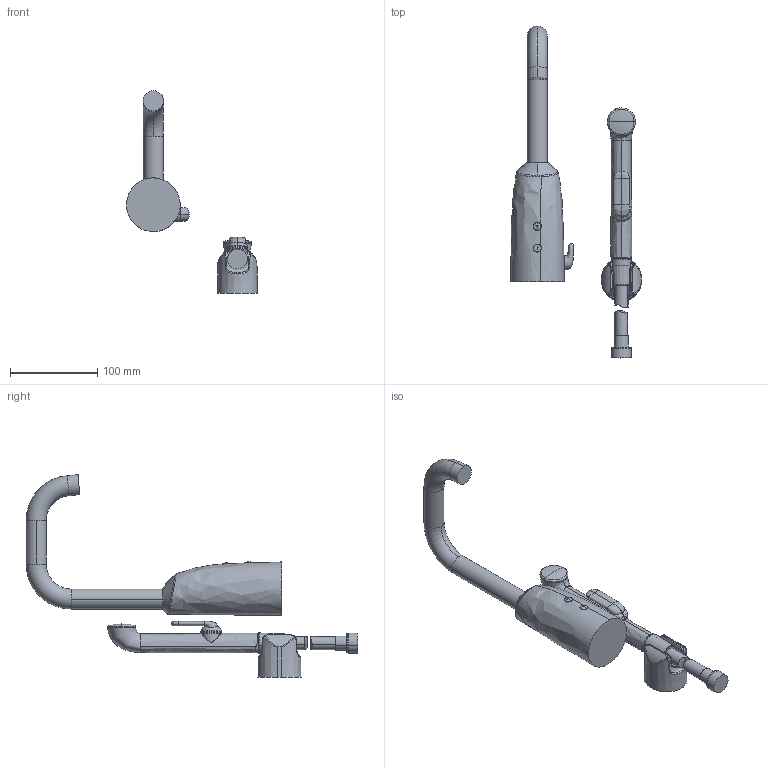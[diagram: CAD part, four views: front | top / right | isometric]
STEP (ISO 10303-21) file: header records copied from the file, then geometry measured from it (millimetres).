
FILE_DESCRIPTION (( 'STEP AP203' ), '1' );
FILE_NAME ('6332F+6336FT.STEP', '2018-07-11T11:33:03', ( '' ), ( '' ), 'SwSTEP 2.0', 'SolidWorks 2016', '' );
FILE_SCHEMA (( 'CONFIG_CONTROL_DESIGN' ));
Length unit declared in the file: millimetre
Products named in the file (1): 6332F+6336FT
Bounding box: 149.99 x 380.01 x 231.96 mm (x, y, z)
Volume: 652929 mm3; surface area: 89911.3 mm2
Topology: 11 solids, 11 shells, 176 faces, 385 edges, 226 vertices
Faces by surface type: bspline 66, cylinder 40, plane 29, torus 24, cone 13, sphere 4
Entity records: 16139 total; most frequent: CARTESIAN_POINT 12711, ORIENTED_EDGE 746, DIRECTION 596, EDGE_CURVE 373, AXIS2_PLACEMENT_3D 265, VERTEX_POINT 226, EDGE_LOOP 183, FACE_OUTER_BOUND 176
